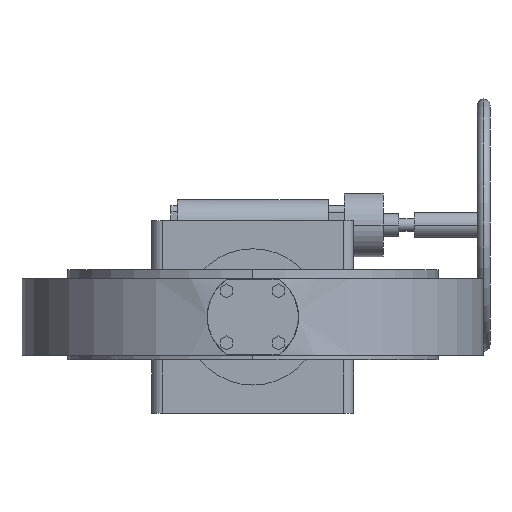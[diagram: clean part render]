
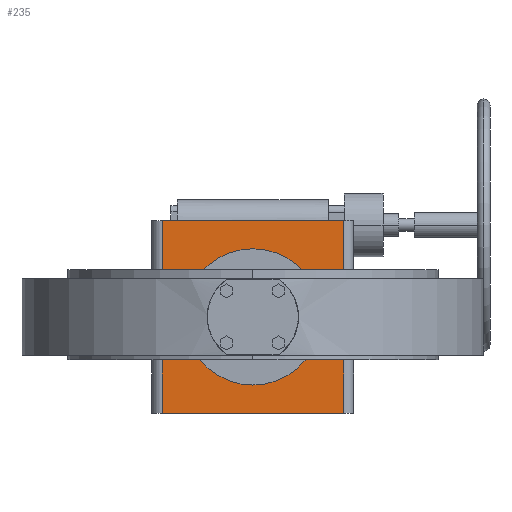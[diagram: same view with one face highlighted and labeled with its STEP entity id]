
A CAD part, front view. The second image highlights one B-rep face of the part: STEP entity #235.
In plain terms, the highlighted planar face has unit normal (0, -1, 0).
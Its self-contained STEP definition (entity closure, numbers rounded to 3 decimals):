
#235 = ADVANCED_FACE( '', ( #677, #678 ), #679, .T. );
#677 = FACE_OUTER_BOUND( '', #1408, .T. );
#678 = FACE_BOUND( '', #1409, .T. );
#679 = PLANE( '', #1410 );
#1408 = EDGE_LOOP( '', ( #2744, #2745, #2746, #2747 ) );
#1409 = EDGE_LOOP( '', ( #2748, #2749 ) );
#1410 = AXIS2_PLACEMENT_3D( '', #2750, #2751, #2752 );
#2744 = ORIENTED_EDGE( '', *, *, #4867, .T. );
#2745 = ORIENTED_EDGE( '', *, *, #4868, .F. );
#2746 = ORIENTED_EDGE( '', *, *, #4869, .F. );
#2747 = ORIENTED_EDGE( '', *, *, #4870, .T. );
#2748 = ORIENTED_EDGE( '', *, *, #4684, .T. );
#2749 = ORIENTED_EDGE( '', *, *, #4871, .T. );
#2750 = CARTESIAN_POINT( '', ( -180., 623., 190.5 ) );
#2751 = DIRECTION( '', ( 0., -1., 0. ) );
#2752 = DIRECTION( '', ( -1., 0., 0. ) );
#4684 = EDGE_CURVE( '', #5685, #5689, #5691, .T. );
#4867 = EDGE_CURVE( '', #5993, #5994, #5995, .T. );
#4868 = EDGE_CURVE( '', #5996, #5994, #5997, .T. );
#4869 = EDGE_CURVE( '', #5998, #5996, #5999, .T. );
#4870 = EDGE_CURVE( '', #5998, #5993, #6000, .T. );
#4871 = EDGE_CURVE( '', #5689, #5685, #6001, .T. );
#5685 = VERTEX_POINT( '', #7673 );
#5689 = VERTEX_POINT( '', #7678 );
#5691 = CIRCLE( '', #7681, 135. );
#5993 = VERTEX_POINT( '', #8259 );
#5994 = VERTEX_POINT( '', #8260 );
#5995 = LINE( '', #8261, #8262 );
#5996 = VERTEX_POINT( '', #8263 );
#5997 = LINE( '', #8264, #8265 );
#5998 = VERTEX_POINT( '', #8266 );
#5999 = LINE( '', #8267, #8268 );
#6000 = LINE( '', #8269, #8270 );
#6001 = CIRCLE( '', #8271, 135. );
#7673 = CARTESIAN_POINT( '', ( 135., 623., 0. ) );
#7678 = CARTESIAN_POINT( '', ( -135., 623., 0. ) );
#7681 = AXIS2_PLACEMENT_3D( '', #9760, #9761, #9762 );
#8259 = CARTESIAN_POINT( '', ( -180., 623., -190.5 ) );
#8260 = CARTESIAN_POINT( '', ( 180., 623., -190.5 ) );
#8261 = CARTESIAN_POINT( '', ( -180., 623., -190.5 ) );
#8262 = VECTOR( '', #10101, 1. );
#8263 = CARTESIAN_POINT( '', ( 180., 623., 190.5 ) );
#8264 = CARTESIAN_POINT( '', ( 180., 623., 190.5 ) );
#8265 = VECTOR( '', #10102, 1. );
#8266 = CARTESIAN_POINT( '', ( -180., 623., 190.5 ) );
#8267 = CARTESIAN_POINT( '', ( -180., 623., 190.5 ) );
#8268 = VECTOR( '', #10103, 1. );
#8269 = CARTESIAN_POINT( '', ( -180., 623., 190.5 ) );
#8270 = VECTOR( '', #10104, 1. );
#8271 = AXIS2_PLACEMENT_3D( '', #10105, #10106, #10107 );
#9760 = CARTESIAN_POINT( '', ( 0., 623., 0. ) );
#9761 = DIRECTION( '', ( 0., 1., 0. ) );
#9762 = DIRECTION( '', ( 1., 0., 0. ) );
#10101 = DIRECTION( '', ( 1., 0., 0. ) );
#10102 = DIRECTION( '', ( 0., 0., -1. ) );
#10103 = DIRECTION( '', ( 1., 0., 0. ) );
#10104 = DIRECTION( '', ( 0., 0., -1. ) );
#10105 = CARTESIAN_POINT( '', ( 0., 623., 0. ) );
#10106 = DIRECTION( '', ( 0., 1., 0. ) );
#10107 = DIRECTION( '', ( 1., 0., 0. ) );
